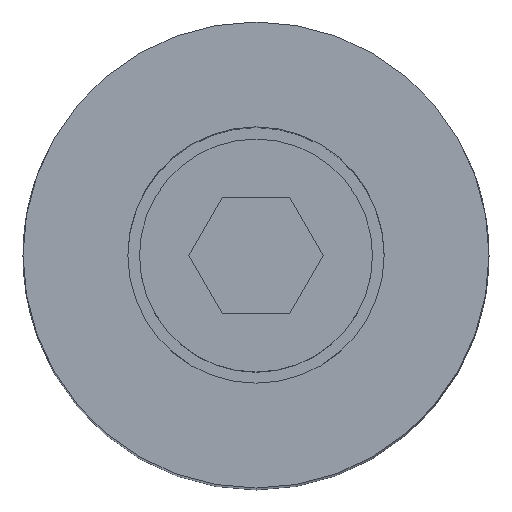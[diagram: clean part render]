
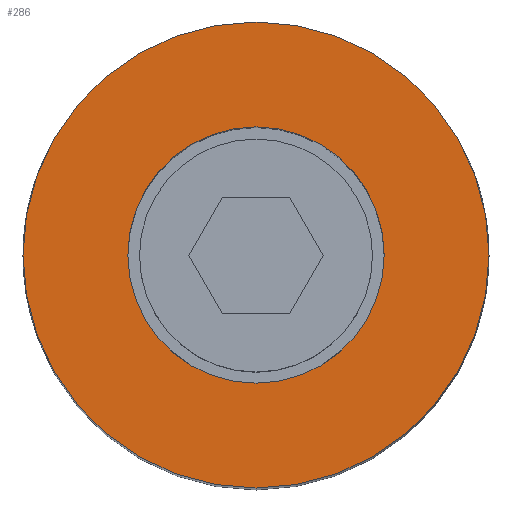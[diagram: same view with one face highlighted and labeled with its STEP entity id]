
A CAD part, top view. The second image highlights one B-rep face of the part: STEP entity #286.
In plain terms, the highlighted planar face has unit normal (0, 0, 1).
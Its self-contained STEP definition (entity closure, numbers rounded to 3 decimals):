
#38 = DIRECTION ( 'NONE',  ( 0., 0., -1. ) ) ;
#53 = VERTEX_POINT ( 'NONE', #951 ) ;
#72 = EDGE_CURVE ( 'NONE', #155, #434, #923, .T. ) ;
#83 = CIRCLE ( 'NONE', #400, 5.5 ) ;
#84 = EDGE_CURVE ( 'NONE', #1018, #53, #83, .T. ) ;
#122 = DIRECTION ( 'NONE',  ( 0., 0., -1. ) ) ;
#129 = DIRECTION ( 'NONE',  ( 0., 1., 0. ) ) ;
#138 = PLANE ( 'NONE',  #354 ) ;
#142 = CIRCLE ( 'NONE', #288, 10. ) ;
#149 = CARTESIAN_POINT ( 'NONE',  ( 0., 10., 160. ) ) ;
#151 = DIRECTION ( 'NONE',  ( 0., 0., -1. ) ) ;
#155 = VERTEX_POINT ( 'NONE', #1072 ) ;
#163 = CARTESIAN_POINT ( 'NONE',  ( 0., 0., 160. ) ) ;
#172 = EDGE_LOOP ( 'NONE', ( #995, #592 ) ) ;
#174 = DIRECTION ( 'NONE',  ( 0., 0., -1. ) ) ;
#215 = ORIENTED_EDGE ( 'NONE', *, *, #84, .T. ) ;
#286 = ADVANCED_FACE ( 'NONE', ( #919, #1094 ), #138, .F. ) ;
#288 = AXIS2_PLACEMENT_3D ( 'NONE', #633, #122, #129 ) ;
#303 = CARTESIAN_POINT ( 'NONE',  ( 0., 0., 160. ) ) ;
#309 = DIRECTION ( 'NONE',  ( 0., 0., -1. ) ) ;
#330 = EDGE_LOOP ( 'NONE', ( #614, #215 ) ) ;
#354 = AXIS2_PLACEMENT_3D ( 'NONE', #478, #309, #653 ) ;
#400 = AXIS2_PLACEMENT_3D ( 'NONE', #1100, #174, #487 ) ;
#434 = VERTEX_POINT ( 'NONE', #149 ) ;
#460 = CIRCLE ( 'NONE', #662, 5.5 ) ;
#478 = CARTESIAN_POINT ( 'NONE',  ( 0., 10., 160. ) ) ;
#487 = DIRECTION ( 'NONE',  ( 0., 1., 0. ) ) ;
#583 = DIRECTION ( 'NONE',  ( 0., 1., 0. ) ) ;
#592 = ORIENTED_EDGE ( 'NONE', *, *, #72, .F. ) ;
#611 = CARTESIAN_POINT ( 'NONE',  ( 0., -5.5, 160. ) ) ;
#614 = ORIENTED_EDGE ( 'NONE', *, *, #1051, .T. ) ;
#633 = CARTESIAN_POINT ( 'NONE',  ( 0., 0., 160. ) ) ;
#653 = DIRECTION ( 'NONE',  ( 0., 1., 0. ) ) ;
#662 = AXIS2_PLACEMENT_3D ( 'NONE', #303, #38, #900 ) ;
#752 = AXIS2_PLACEMENT_3D ( 'NONE', #163, #151, #583 ) ;
#900 = DIRECTION ( 'NONE',  ( 0., 1., 0. ) ) ;
#919 = FACE_OUTER_BOUND ( 'NONE', #172, .T. ) ;
#923 = CIRCLE ( 'NONE', #752, 10. ) ;
#951 = CARTESIAN_POINT ( 'NONE',  ( 0., 5.5, 160. ) ) ;
#995 = ORIENTED_EDGE ( 'NONE', *, *, #1071, .F. ) ;
#1018 = VERTEX_POINT ( 'NONE', #611 ) ;
#1051 = EDGE_CURVE ( 'NONE', #53, #1018, #460, .T. ) ;
#1071 = EDGE_CURVE ( 'NONE', #434, #155, #142, .T. ) ;
#1072 = CARTESIAN_POINT ( 'NONE',  ( 0., -10., 160. ) ) ;
#1094 = FACE_BOUND ( 'NONE', #330, .T. ) ;
#1100 = CARTESIAN_POINT ( 'NONE',  ( 0., 0., 160. ) ) ;
